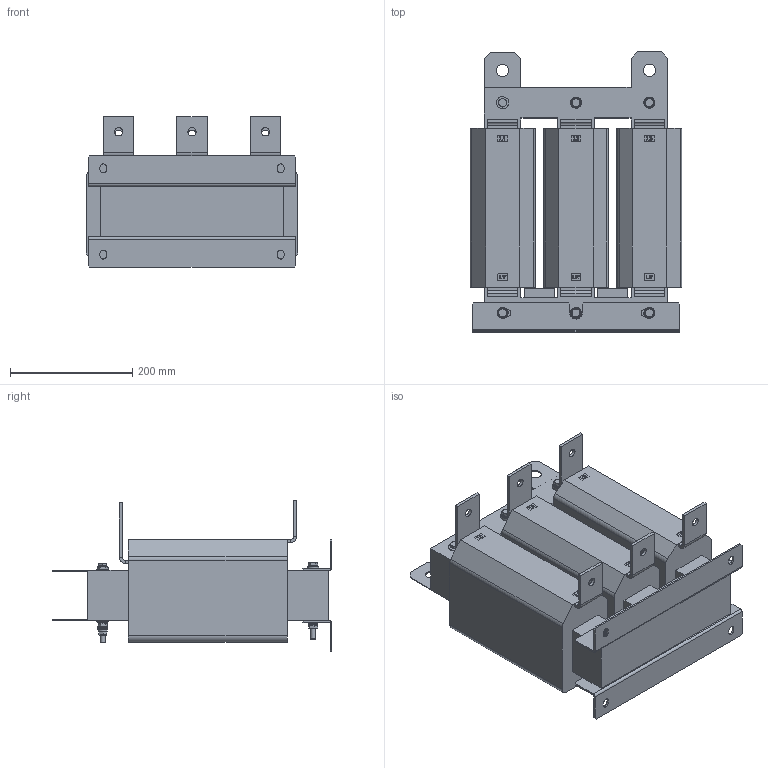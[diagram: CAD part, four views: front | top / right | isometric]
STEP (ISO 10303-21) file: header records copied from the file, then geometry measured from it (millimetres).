
FILE_DESCRIPTION(/* description */ ('raw material description'),/* implementation_level */ '2;1');
FILE_NAME(/* name */ 'P:\Construction\Filter_Marketing\RWK\RWK3044_RWK3062\RWK3044\RWK3044-570-99-E0XXX.stp',/* time_stamp */ '2018-08-27T11:03:50+02:00',/* author */ ('Erika.Jenzer'),/* organization */ ('Schaffner EMV AG'),/* preprocessor_version */ 'ST-DEVELOPER v16.5',/* originating_system */ 'Autodesk Inventor 2017',/* authorisation */ '');
FILE_SCHEMA (('AUTOMOTIVE_DESIGN { 1 0 10303 214 3 1 1 }'));
Length unit declared in the file: millimetre
Products named in the file (1): RWK3044-570-99-E0XXX
Bounding box: 346 x 458 x 246.8 mm (x, y, z)
Volume: 16662591 mm3; surface area: 817520.4 mm2
Topology: 39 solids, 50 shells, 1054 faces, 2569 edges, 1693 vertices
Faces by surface type: plane 725, cylinder 163, cone 109, bspline 50, torus 7
Full cylindrical faces by diameter (mm): 8 x19, 8.2 x6, 8.4 x14, 9.9 x5, 10.5 x3, 11.4 x6, 13 x1, 13.5 x6, 16 x12, 18 x5, 20 x4
Entity records: 30798 total; most frequent: CARTESIAN_POINT 6135, ORIENTED_EDGE 4834, DIRECTION 4552, EDGE_CURVE 2410, LINE 1690, VECTOR 1690, VERTEX_POINT 1652, AXIS2_PLACEMENT_3D 1431
